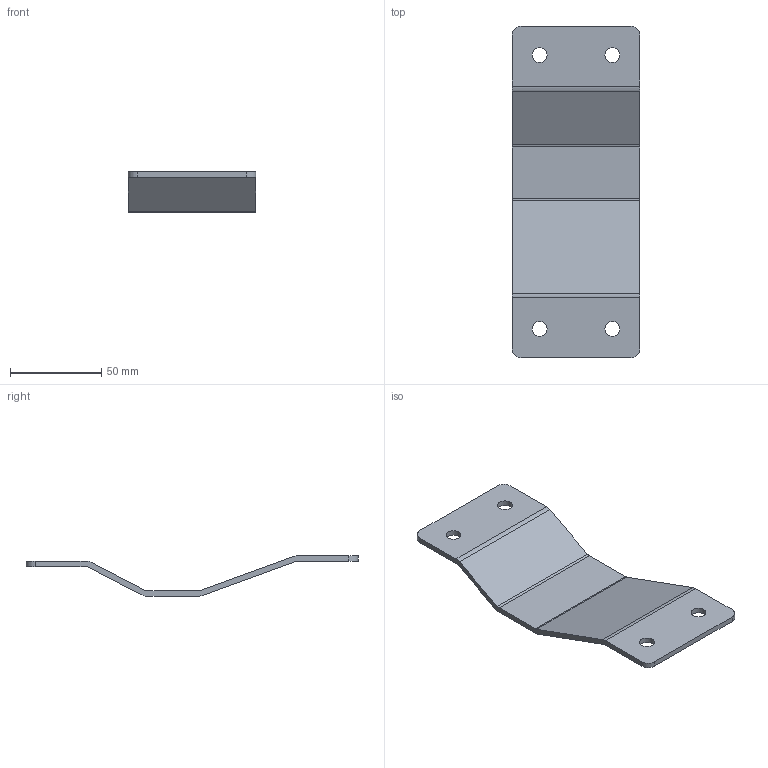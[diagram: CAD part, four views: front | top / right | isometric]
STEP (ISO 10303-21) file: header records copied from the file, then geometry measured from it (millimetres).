
FILE_DESCRIPTION(/* description */ ('BEAM SUPPORT 80x80 TO SERIE 530'),/* implementation_level */ '2;1');
FILE_NAME(/* name */ '500-1230.stp',/* time_stamp */ '2022-09-16T08:24:49+02:00',/* author */ ('PL'),/* organization */ ('CARRYLINE'),/* preprocessor_version */ 'ST-DEVELOPER v19.2',/* originating_system */ 'Autodesk Inventor 2023',/* authorisation */ '');
FILE_SCHEMA (('AUTOMOTIVE_DESIGN { 1 0 10303 214 3 1 1 }'));
Length unit declared in the file: millimetre
Products named in the file (1): 500-1230
Bounding box: 70 x 182.06 x 22.18 mm (x, y, z)
Volume: 39054.6 mm3; surface area: 27875.6 mm2
Topology: 1 solids, 1 shells, 30 faces, 84 edges, 56 vertices
Faces by surface type: cylinder 16, plane 14
Full cylindrical faces by diameter (mm): 8.2 x4
Entity records: 1039 total; most frequent: DIRECTION 178, CARTESIAN_POINT 171, ORIENTED_EDGE 168, EDGE_CURVE 84, AXIS2_PLACEMENT_3D 63, VERTEX_POINT 56, LINE 52, VECTOR 52
